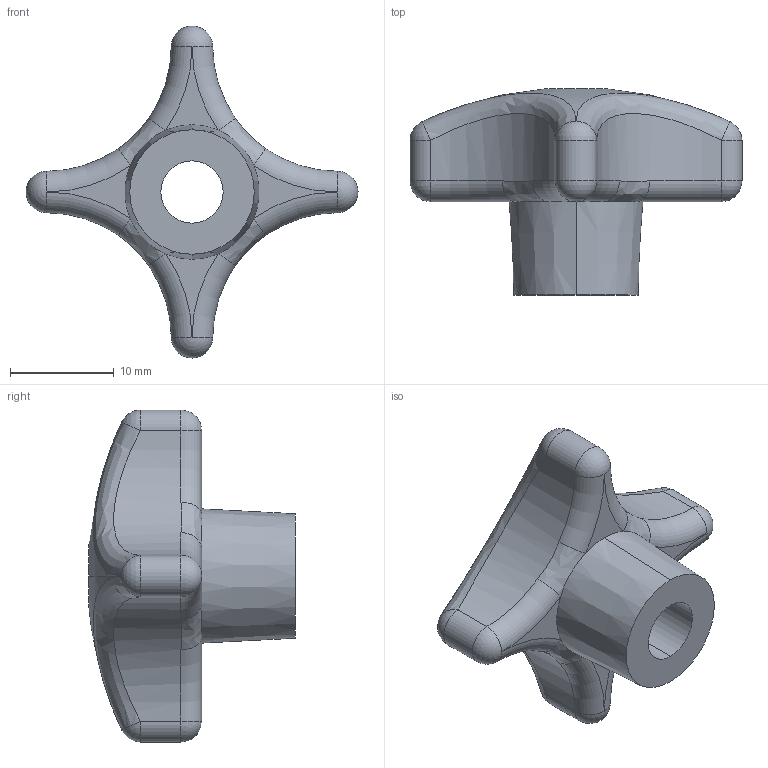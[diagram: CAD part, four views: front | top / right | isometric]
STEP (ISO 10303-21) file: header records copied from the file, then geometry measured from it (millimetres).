
FILE_DESCRIPTION (( 'STEP AP203' ), '1' );
FILE_NAME ('7000.W132.step', '2010-01-29T17:34:58', ( 'Wixroyd' ), ( 'Wixroyd' ), 'SwSTEP 2.0', 'SolidWorks 2009', '' );
FILE_SCHEMA (( 'CONFIG_CONTROL_DESIGN' ));
Length unit declared in the file: millimetre
Products named in the file (1): 7000.W132
Bounding box: 32 x 19.87 x 32 mm (x, y, z)
Volume: 3920.9 mm3; surface area: 2127.3 mm2
Topology: 1 solids, 1 shells, 44 faces, 99 edges, 52 vertices
Faces by surface type: cylinder 11, sphere 10, torus 8, bspline 8, plane 5, cone 2
Entity records: 4214 total; most frequent: CARTESIAN_POINT 3176, DIRECTION 227, ORIENTED_EDGE 190, AXIS2_PLACEMENT_3D 107, EDGE_CURVE 95, CIRCLE 70, VERTEX_POINT 52, EDGE_LOOP 45
